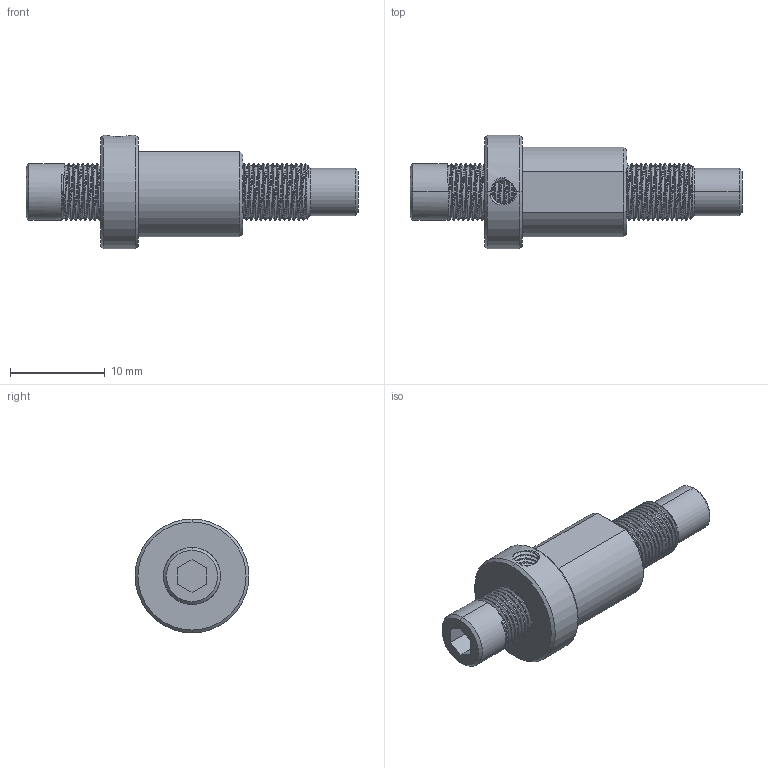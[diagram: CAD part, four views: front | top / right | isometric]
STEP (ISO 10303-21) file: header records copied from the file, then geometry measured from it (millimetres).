
FILE_DESCRIPTION((''),'2;1');
FILE_NAME('M605-L35-A_ASM','2024-11-05T17:36:54',('R&D'),(''),'CREO PARAMETRIC BY PTC INC, 2021063','CREO PARAMETRIC BY PTC INC, 2021063','');
FILE_SCHEMA(('CONFIG_CONTROL_DESIGN'));
Length unit declared in the file: millimetre
Products named in the file (3): M605-L35-A; M605-L-A; M605-L35-A_ASM
Assembly tree (2 placements, depth 2):
  M605-L35-A_ASM
    M605-L35-A
    M605-L-A
Bounding box: 35 x 12 x 12 mm (x, y, z)
Volume: 1637.1 mm3; surface area: 2070.6 mm2
Topology: 2 solids, 2 shells, 316 faces, 850 edges, 538 vertices
Faces by surface type: cylinder 180, bspline 111, plane 14, cone 11
Entity records: 29173 total; most frequent: CARTESIAN_POINT 22639, ORIENTED_EDGE 1700, EDGE_CURVE 850, DIRECTION 740, B_SPLINE_CURVE_WITH_KNOTS 556, VERTEX_POINT 538, EDGE_LOOP 320, FACE_OUTER_BOUND 316
